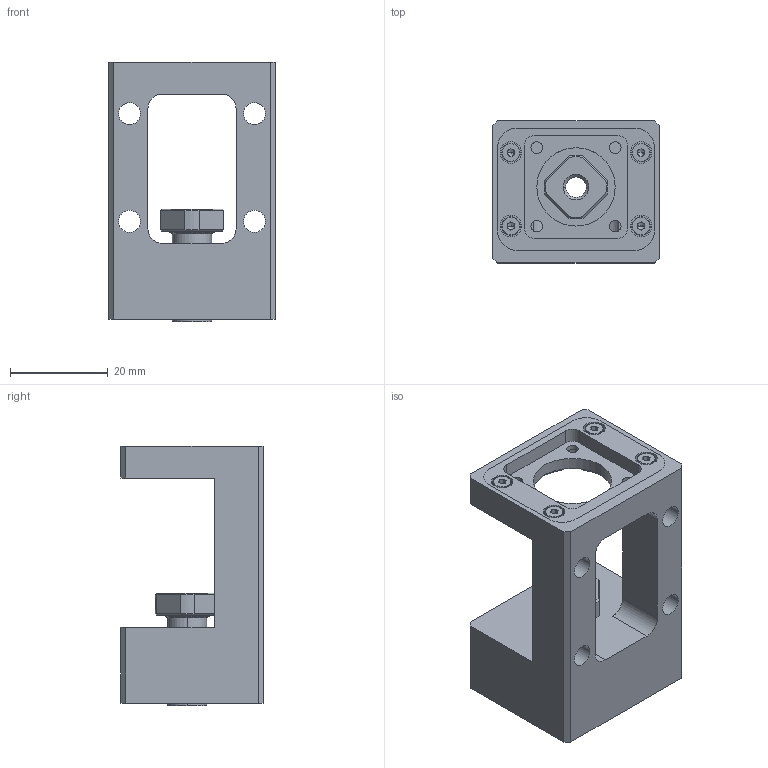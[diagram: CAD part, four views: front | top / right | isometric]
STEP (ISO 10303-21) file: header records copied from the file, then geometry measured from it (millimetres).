
FILE_DESCRIPTION (( 'STEP AP214' ), '1' );
FILE_NAME ('M-SBU-5.20-P5.STEP', '2026-03-25T04:33:31', ( '决扁浅何厘' ), ( '' ), 'SwSTEP 2.0', 'SolidWorks 2024', '' );
FILE_SCHEMA (( 'AUTOMOTIVE_DESIGN' ));
Length unit declared in the file: millimetre
Products named in the file (9): RN5; socket head cap screw_ks_KS 1003 - M2 x 4 x 4-N; AC5; 5-P5-4.5; 5-P5 COVER; M-SBU-5.20-P5; 5-P5-5.5; 20 BRACKET; M-SBU-5-P5 HOUSING
Assembly tree (12 placements, depth 2):
  M-SBU-5.20-P5
    M-SBU-5-P5 HOUSING
    AC5  x2
    5-P5 COVER
    5-P5-5.5
    RN5
    20 BRACKET
    socket head cap screw_ks_KS 1003 - M2 x 4 x 4-N  x4
    5-P5-4.5
Bounding box: 34 x 29 x 53 mm (x, y, z)
Volume: 23290.8 mm3; surface area: 15277.3 mm2
Topology: 32 solids, 32 shells, 474 faces, 1135 edges, 707 vertices
Faces by surface type: plane 168, cylinder 166, cone 56, torus 52, sphere 32
Entity records: 10445 total; most frequent: CARTESIAN_POINT 2025, DIRECTION 1806, ORIENTED_EDGE 1550, EDGE_CURVE 775, AXIS2_PLACEMENT_3D 713, VERTEX_POINT 498, EDGE_LOOP 409, VECTOR 380
